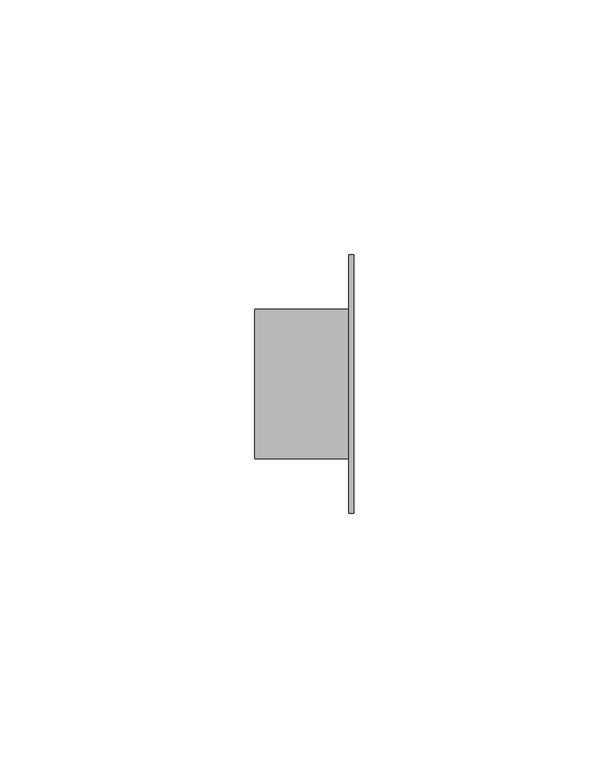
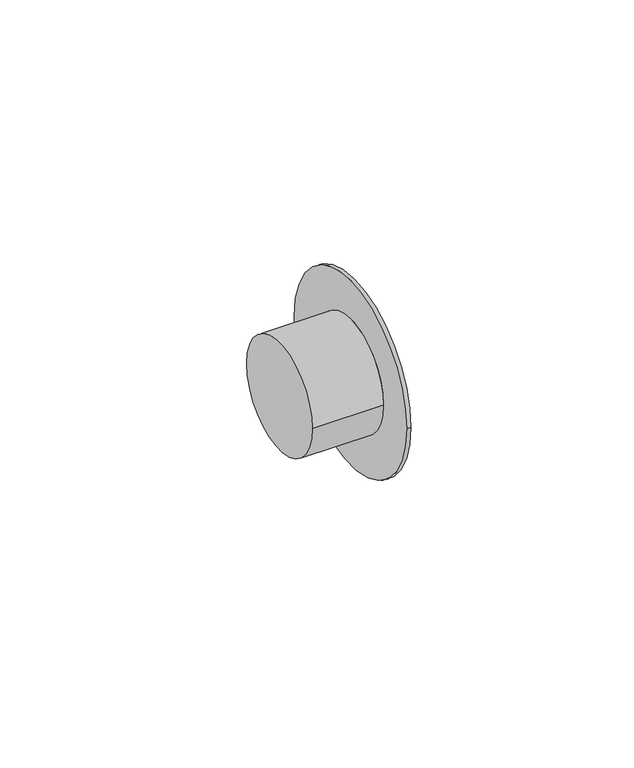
"""IFC4 building model written with IfcOpenShell, lengths in millimetres: pipe fitting geometry, Bucha de redução reta - Soldada - CU : Padrão."""

from ifc_helpers import new_model, si_unit, frame, origin, place, context, project, spatial, circle_curve, source, transform, mapped, element, save
from ifc_brep_helpers import plane_surface, cylinder_surface, advanced_brep


def pipe_fitting_e8b5b003(model_context):
    return source(origin(), model_context, "Body", "AdvancedBrep", [
        advanced_brep(
        [(0.0, -14.7, 0.0), (0.0, 14.7, 0.0), (18.4, -14.7, 0.0), (18.4, 14.7, 0.0), (19.4, -25.3, 0.0), (19.4, 25.3, 0.0), (18.4, 25.3, 0.0), (18.4, -25.3, 0.0)],
        [
            (0, 1, circle_curve(frame((0.0, 0.0, 0.0), z_axis=(-1.0, 0.0, 0.0), x_axis=(0.0, 1.0, 0.0)), 14.7)),
            (1, 0, circle_curve(frame((0.0, 0.0, 0.0), z_axis=(-1.0, 0.0, 0.0), x_axis=(0.0, 1.0, 0.0)), 14.7)),
            (0, 2),
            (2, 3, circle_curve(frame((18.4, 0.0, 0.0), z_axis=(-1.0, 0.0, 0.0), x_axis=(0.0, 1.0, 0.0)), 14.7)),
            (3, 1),
            (3, 2, circle_curve(frame((18.4, 0.0, 0.0), z_axis=(-1.0, 0.0, 0.0), x_axis=(0.0, 1.0, 0.0)), 14.7)),
            (4, 5, circle_curve(frame((19.4, 0.0, 0.0), z_axis=(1.0, 0.0, 0.0), x_axis=(0.0, 1.0, 0.0)), 25.3)),
            (5, 4, circle_curve(frame((19.4, 0.0, 0.0), z_axis=(1.0, 0.0, 0.0), x_axis=(0.0, 1.0, 0.0)), 25.3)),
            (6, 7, circle_curve(frame((18.4, 0.0, 0.0), z_axis=(1.0, 0.0, 0.0), x_axis=(0.0, 1.0, 0.0)), 25.3)),
            (7, 4),
            (5, 6),
            (7, 6, circle_curve(frame((18.4, 0.0, 0.0), z_axis=(1.0, 0.0, 0.0), x_axis=(0.0, 1.0, 0.0)), 25.3)),
        ],
        [
            plane_surface(frame((0.0, 0.0, 0.0), z_axis=(-1.0, 0.0, 0.0), x_axis=(0.0, 0.0, 1.0))),
            cylinder_surface(frame((0.0, 0.0, 0.0), z_axis=(-1.0, 0.0, 0.0), x_axis=(0.0, 1.0, 0.0)), 14.7),
            plane_surface(frame((19.4, 0.0, 0.0), z_axis=(1.0, 0.0, 0.0), x_axis=(0.0, 0.0, 1.0))),
            cylinder_surface(frame((18.4, 0.0, 0.0), z_axis=(-1.0, 0.0, 0.0), x_axis=(0.0, 1.0, 0.0)), 25.3),
            plane_surface(frame((18.4, 0.0, 0.0), z_axis=(-1.0, 0.0, 0.0), x_axis=(0.0, 0.0, 1.0))),
        ],
        [
            (0, [[1, 2]]),
            (1, [[-1, 3, 4, 5]]),
            (1, [[-2, -5, 6, -3]]),
            (2, [[7, 8]]),
            (3, [[9, 10, -8, 11]]),
            (3, [[12, -11, -7, -10]]),
            (4, [[-9, -12], [-4, -6]]),
        ],
    ),
    ])


if __name__ == "__main__":
    model = new_model("IFC4")
    model_context = context("Model", 3, world=origin())
    ifc_project = project(units=[si_unit("LENGTHUNIT", "METRE", prefix="MILLI")], contexts=[model_context])
    site = spatial("IfcSite", under=ifc_project)
    building = spatial("IfcBuilding", under=site)
    placement = place(None, origin())
    pipe_fitting_shape = pipe_fitting_e8b5b003(model_context)
    element("IfcPipeFitting", 1, ObjectType="Bucha de redução reta - Soldada - CU : Padrão", at=placement, inside=building, context=model_context, shape_type="MappedRepresentation", body=[
        mapped(pipe_fitting_shape, transform((0.0, 0.0, 0.0), x_axis=(1.0, 0.0, 0.0), y_axis=(0.0, 1.0, 0.0), z_axis=(0.0, 0.0, 1.0))),
    ])
    save(model, "model.ifc")
